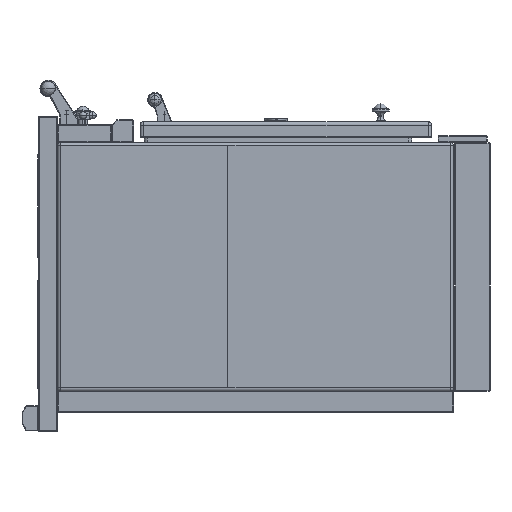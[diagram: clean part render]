
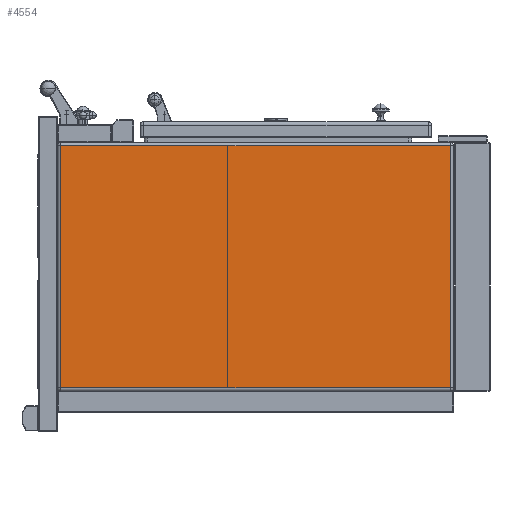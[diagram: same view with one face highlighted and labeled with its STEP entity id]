
A CAD part, left-side view. The second image highlights one B-rep face of the part: STEP entity #4554.
In plain terms, the highlighted planar face has unit normal (-1, 0, 0).
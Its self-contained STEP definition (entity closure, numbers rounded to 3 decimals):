
#390=DIRECTION('',(0.,1.,0.));
#391=VECTOR('',#390,801.);
#392=CARTESIAN_POINT('',(-950.,82.,249.));
#393=LINE('',#392,#391);
#394=DIRECTION('',(0.,0.,1.));
#395=VECTOR('',#394,498.);
#396=CARTESIAN_POINT('',(-950.,82.,-249.));
#397=LINE('',#396,#395);
#398=DIRECTION('',(0.,-1.,0.));
#399=VECTOR('',#398,801.);
#400=CARTESIAN_POINT('',(-950.,883.,-249.));
#401=LINE('',#400,#399);
#402=DIRECTION('',(0.,0.,-1.));
#403=VECTOR('',#402,498.);
#404=CARTESIAN_POINT('',(-950.,883.,249.));
#405=LINE('',#404,#403);
#3162=CARTESIAN_POINT('',(-950.,82.,249.));
#3163=CARTESIAN_POINT('',(-950.,883.,249.));
#3164=VERTEX_POINT('',#3162);
#3165=VERTEX_POINT('',#3163);
#3166=CARTESIAN_POINT('',(-950.,82.,-249.));
#3167=VERTEX_POINT('',#3166);
#3184=CARTESIAN_POINT('',(-950.,883.,-249.));
#3185=VERTEX_POINT('',#3184);
#4541=CARTESIAN_POINT('',(-950.,0.,0.));
#4542=DIRECTION('',(1.,0.,0.));
#4543=DIRECTION('',(0.,0.,-1.));
#4544=AXIS2_PLACEMENT_3D('',#4541,#4542,#4543);
#4545=PLANE('',#4544);
#4546=ORIENTED_EDGE('',*,*,#4486,.F.);
#4547=ORIENTED_EDGE('',*,*,#4524,.F.);
#4549=ORIENTED_EDGE('',*,*,#4548,.F.);
#4551=ORIENTED_EDGE('',*,*,#4550,.F.);
#4552=EDGE_LOOP('',(#4546,#4547,#4549,#4551));
#4553=FACE_OUTER_BOUND('',#4552,.F.);
#4486=EDGE_CURVE('',#3164,#3165,#393,.T.);
#4524=EDGE_CURVE('',#3167,#3164,#397,.T.);
#4548=EDGE_CURVE('',#3185,#3167,#401,.T.);
#4550=EDGE_CURVE('',#3165,#3185,#405,.T.);
#4554=ADVANCED_FACE('',(#4553),#4545,.F.);
